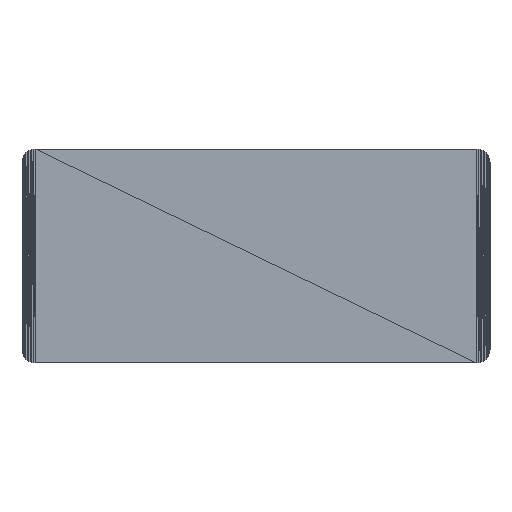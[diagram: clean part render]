
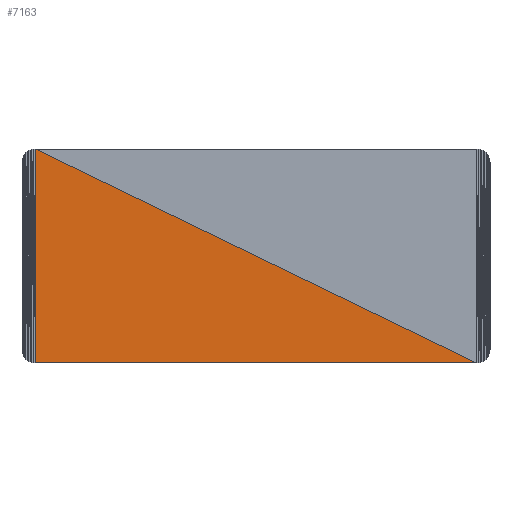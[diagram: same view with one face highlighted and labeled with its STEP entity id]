
A CAD part, front view. The second image highlights one B-rep face of the part: STEP entity #7163.
In plain terms, the highlighted planar face has unit normal (0, -1, 0).
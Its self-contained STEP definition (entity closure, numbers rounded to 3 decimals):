
#7053 = VERTEX_POINT('',#7054);
#7054 = CARTESIAN_POINT('',(10.,0.,
    0.));
#7094 = PLANE('',#7095);
#7095 = AXIS2_PLACEMENT_3D('',#7096,#7097,#7098);
#7096 = CARTESIAN_POINT('',(9.672,0.,
    80.304));
#7097 = DIRECTION('',(0.,-1.,0.));
#7098 = DIRECTION('',(-1.,0.,0.));
#7110 = EDGE_CURVE('',#7053,#7111,#7113,.T.);
#7111 = VERTEX_POINT('',#7112);
#7112 = CARTESIAN_POINT('',(10.,0.,
    160.));
#7113 = SURFACE_CURVE('',#7114,(#7118,#7125),.PCURVE_S1.);
#7114 = LINE('',#7115,#7116);
#7115 = CARTESIAN_POINT('',(10.,0.,
    0.));
#7116 = VECTOR('',#7117,1.);
#7117 = DIRECTION('',(0.,0.,1.));
#7118 = PCURVE('',#7094,#7119);
#7119 = DEFINITIONAL_REPRESENTATION('',(#7120),#7124);
#7120 = LINE('',#7121,#7122);
#7121 = CARTESIAN_POINT('',(-0.328,80.304));
#7122 = VECTOR('',#7123,1.);
#7123 = DIRECTION('',(0.,-1.));
#7124 = ( GEOMETRIC_REPRESENTATION_CONTEXT(2) 
PARAMETRIC_REPRESENTATION_CONTEXT() REPRESENTATION_CONTEXT('2D SPACE',''
  ) );
#7125 = PCURVE('',#7126,#7131);
#7126 = PLANE('',#7127);
#7127 = AXIS2_PLACEMENT_3D('',#7128,#7129,#7130);
#7128 = CARTESIAN_POINT('',(144.186,0.,
    49.186));
#7129 = DIRECTION('',(0.,-1.,0.));
#7130 = DIRECTION('',(0.,0.,-1.));
#7131 = DEFINITIONAL_REPRESENTATION('',(#7132),#7136);
#7132 = LINE('',#7133,#7134);
#7133 = CARTESIAN_POINT('',(49.186,-134.186));
#7134 = VECTOR('',#7135,1.);
#7135 = DIRECTION('',(-1.,0.));
#7136 = ( GEOMETRIC_REPRESENTATION_CONTEXT(2) 
PARAMETRIC_REPRESENTATION_CONTEXT() REPRESENTATION_CONTEXT('2D SPACE',''
  ) );
#7163 = ADVANCED_FACE('',(#7164),#7126,.T.);
#7164 = FACE_BOUND('',#7165,.T.);
#7165 = EDGE_LOOP('',(#7166,#7167,#7195));
#7166 = ORIENTED_EDGE('',*,*,#7110,.F.);
#7167 = ORIENTED_EDGE('',*,*,#7168,.T.);
#7168 = EDGE_CURVE('',#7053,#7169,#7171,.T.);
#7169 = VERTEX_POINT('',#7170);
#7170 = CARTESIAN_POINT('',(340.,0.,
    0.));
#7171 = SURFACE_CURVE('',#7172,(#7176,#7183),.PCURVE_S1.);
#7172 = LINE('',#7173,#7174);
#7173 = CARTESIAN_POINT('',(10.,0.,
    0.));
#7174 = VECTOR('',#7175,1.);
#7175 = DIRECTION('',(1.,0.,0.));
#7176 = PCURVE('',#7126,#7177);
#7177 = DEFINITIONAL_REPRESENTATION('',(#7178),#7182);
#7178 = LINE('',#7179,#7180);
#7179 = CARTESIAN_POINT('',(49.186,-134.186));
#7180 = VECTOR('',#7181,1.);
#7181 = DIRECTION('',(0.,1.));
#7182 = ( GEOMETRIC_REPRESENTATION_CONTEXT(2) 
PARAMETRIC_REPRESENTATION_CONTEXT() REPRESENTATION_CONTEXT('2D SPACE',''
  ) );
#7183 = PCURVE('',#7184,#7189);
#7184 = PLANE('',#7185);
#7185 = AXIS2_PLACEMENT_3D('',#7186,#7187,#7188);
#7186 = CARTESIAN_POINT('',(173.514,1.514,
    0.));
#7187 = DIRECTION('',(0.,0.,-1.));
#7188 = DIRECTION('',(0.,-1.,0.));
#7189 = DEFINITIONAL_REPRESENTATION('',(#7190),#7194);
#7190 = LINE('',#7191,#7192);
#7191 = CARTESIAN_POINT('',(1.514,163.514));
#7192 = VECTOR('',#7193,1.);
#7193 = DIRECTION('',(0.,-1.));
#7194 = ( GEOMETRIC_REPRESENTATION_CONTEXT(2) 
PARAMETRIC_REPRESENTATION_CONTEXT() REPRESENTATION_CONTEXT('2D SPACE',''
  ) );
#7195 = ORIENTED_EDGE('',*,*,#7196,.T.);
#7196 = EDGE_CURVE('',#7169,#7111,#7197,.T.);
#7197 = SURFACE_CURVE('',#7198,(#7202,#7209),.PCURVE_S1.);
#7198 = LINE('',#7199,#7200);
#7199 = CARTESIAN_POINT('',(340.,0.,
    0.));
#7200 = VECTOR('',#7201,1.);
#7201 = DIRECTION('',(-0.9,0.,0.436));
#7202 = PCURVE('',#7126,#7203);
#7203 = DEFINITIONAL_REPRESENTATION('',(#7204),#7208);
#7204 = LINE('',#7205,#7206);
#7205 = CARTESIAN_POINT('',(49.186,195.814));
#7206 = VECTOR('',#7207,1.);
#7207 = DIRECTION('',(-0.436,-0.9));
#7208 = ( GEOMETRIC_REPRESENTATION_CONTEXT(2) 
PARAMETRIC_REPRESENTATION_CONTEXT() REPRESENTATION_CONTEXT('2D SPACE',''
  ) );
#7209 = PCURVE('',#7210,#7215);
#7210 = PLANE('',#7211);
#7211 = AXIS2_PLACEMENT_3D('',#7212,#7213,#7214);
#7212 = CARTESIAN_POINT('',(205.814,0.,
    110.814));
#7213 = DIRECTION('',(-0.,-1.,-0.));
#7214 = DIRECTION('',(0.,0.,-1.));
#7215 = DEFINITIONAL_REPRESENTATION('',(#7216),#7220);
#7216 = LINE('',#7217,#7218);
#7217 = CARTESIAN_POINT('',(110.814,134.186));
#7218 = VECTOR('',#7219,1.);
#7219 = DIRECTION('',(-0.436,-0.9));
#7220 = ( GEOMETRIC_REPRESENTATION_CONTEXT(2) 
PARAMETRIC_REPRESENTATION_CONTEXT() REPRESENTATION_CONTEXT('2D SPACE',''
  ) );
